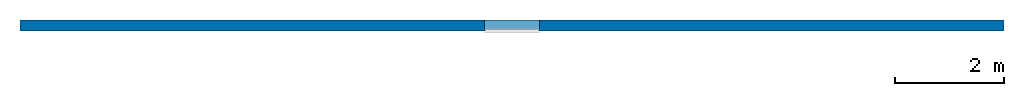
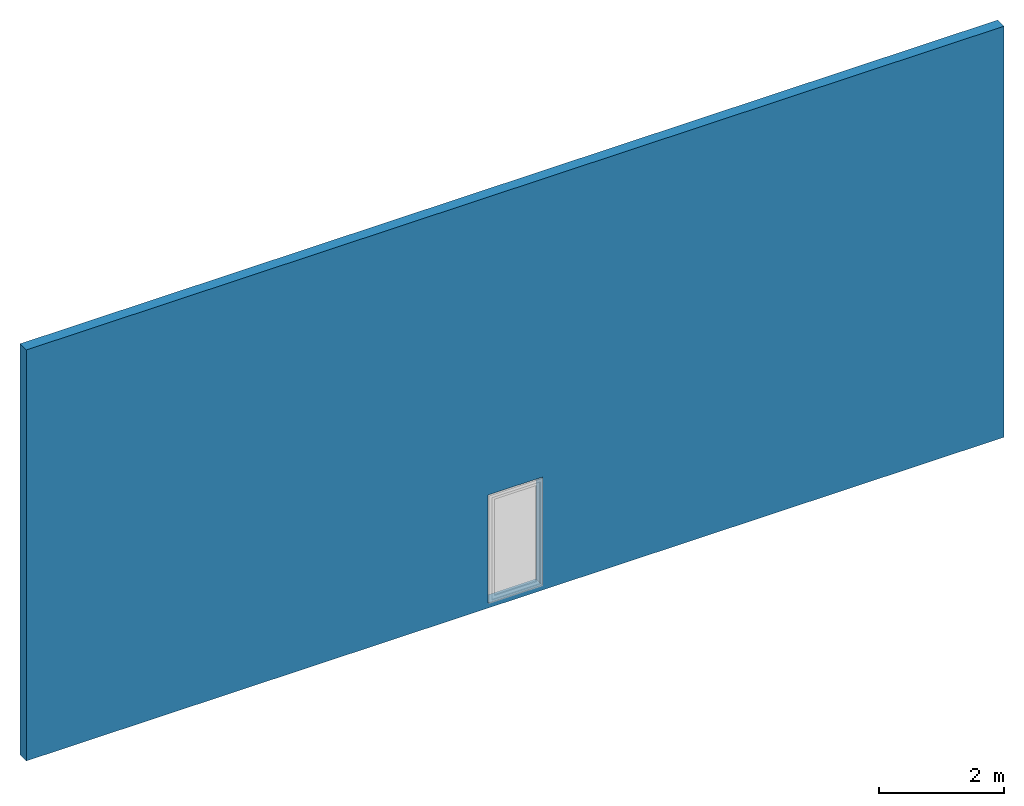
# One storey, part 1 of 2: 1 wall, 1 opening.
"""IFC2X3 building model written with IfcOpenShell, lengths in millimetres."""

import ifcopenshell
import ifcopenshell.guid

model = None  # the IFC model being written
_history = None  # IfcOwnerHistory: only IFC2X3 demands one
_inside = {}  # id of a spatial element -> (the spatial element, [elements in it])
_under = {}  # id of a project, library or spatial element -> (it, [spatial elements below it])
_declared = {}  # id of a project -> (the project, [libraries it declares])
_typed = {}  # id of a type object -> (the type object, [elements of that type])
_made_of = {}  # id of a material, layer set ... -> (it, [elements and type objects made of it])


def new_model(schema):
    """Start an empty IFC model of exactly this schema.

    Asked for "IFC4X3", IfcOpenShell would pick the latest addendum, in which some entities
    have other attributes; the version numbers below select the first issue.
    IFC2X3 requires an IfcOwnerHistory on every rooted entity: one is made here for all.
    """
    global model, _history
    if schema == "IFC4X3":
        model = ifcopenshell.file(schema_version=(4, 3, 0, 0))
    else:
        model = ifcopenshell.file(schema=schema)
    _inside.clear()
    _under.clear()
    _declared.clear()
    _typed.clear()
    _made_of.clear()
    _history = None
    if model.schema == "IFC2X3":
        org = make("IfcOrganization", Name="unknown")
        user = make(
            "IfcPersonAndOrganization",
            ThePerson=make("IfcPerson", FamilyName="unknown"),
            TheOrganization=org,
        )
        app = make(
            "IfcApplication",
            ApplicationDeveloper=org,
            Version="unknown",
            ApplicationFullName="unknown",
            ApplicationIdentifier="unknown",
        )
        _history = make(
            "IfcOwnerHistory",
            OwningUser=user,
            OwningApplication=app,
            ChangeAction="ADDED",
            CreationDate=0,
        )
    return model


def make(cls, **values):
    """One entity of the class cls with the attributes given. An attribute that is None is left unset."""
    return model.create_entity(
        cls, **{name: value for name, value in values.items() if value is not None}
    )


def entity(cls, *values):
    """Any entity or typed value of the class cls, its attributes in the order of the schema. None: left unset."""
    e = model.create_entity(cls)
    for i, value in enumerate(values):
        if value is not None:
            e[i] = value
    return e


def rooted(cls, **values):
    """An entity with a GlobalId (a new one), such as an element, a storey or a relation."""
    return make(cls, GlobalId=ifcopenshell.guid.new(), OwnerHistory=_history, **values)


def si_unit(unit_type, name, prefix=None):
    """IfcSIUnit, for example si_unit("LENGTHUNIT", "METRE", prefix="MILLI")."""
    return make("IfcSIUnit", UnitType=unit_type, Prefix=prefix, Name=name)


def converted_unit(unit_type, name, factor, base, dimensions=None, offset=None):
    """IfcConversionBasedUnit, such as the inch: factor (a typed value) times the base unit."""
    return make(
        "IfcConversionBasedUnit"
        if offset is None
        else "IfcConversionBasedUnitWithOffset",
        ConversionOffset=offset,
        Dimensions=None
        if dimensions is None
        else entity("IfcDimensionalExponents", *dimensions),
        UnitType=unit_type,
        Name=name,
        ConversionFactor=make(
            "IfcMeasureWithUnit", ValueComponent=factor, UnitComponent=base
        ),
    )


def derived_unit(unit_type, elements):
    """IfcDerivedUnit: a product of units, each with its exponent."""
    return make(
        "IfcDerivedUnit",
        Elements=[
            make("IfcDerivedUnitElement", Unit=unit, Exponent=power)
            for unit, power in elements
        ],
        UnitType=unit_type,
    )


def assignment(units):
    """IfcUnitAssignment: the units of a project."""
    return None if units is None else make("IfcUnitAssignment", Units=units)


def point(xyz):
    """IfcCartesianPoint."""
    return None if xyz is None else make("IfcCartesianPoint", Coordinates=xyz)


def direction(xyz):
    """IfcDirection."""
    return None if xyz is None else make("IfcDirection", DirectionRatios=xyz)


def frame(location, z_axis=None, x_axis=None):
    """IfcAxis2Placement3D, a coordinate frame: its origin and axes. An axis left out is left unset."""
    return make(
        "IfcAxis2Placement3D",
        Location=point(location),
        Axis=direction(z_axis),
        RefDirection=direction(x_axis),
    )


def frame_2d(location, x_axis=None):
    """IfcAxis2Placement2D, a coordinate frame in the plane: its origin and x axis."""
    return make(
        "IfcAxis2Placement2D", Location=point(location), RefDirection=direction(x_axis)
    )


def origin():
    """The frame at (0, 0, 0) with its axes left unset."""
    return frame((0.0, 0.0, 0.0))


def place(relative_to, where):
    """IfcLocalPlacement: puts the frame where relative to a parent placement (None: the world)."""
    return make(
        "IfcLocalPlacement", PlacementRelTo=relative_to, RelativePlacement=where
    )


def context(
    kind, dimensions, precision=None, world=None, true_north=None, identifier=None
):
    """IfcGeometricRepresentationContext, for example the 3D "Model" context."""
    return make(
        "IfcGeometricRepresentationContext",
        ContextIdentifier=identifier,
        ContextType=kind,
        CoordinateSpaceDimension=dimensions,
        Precision=precision,
        WorldCoordinateSystem=world,
        TrueNorth=true_north,
    )


def subcontext(parent, identifier, kind, view, scale=None):
    """IfcGeometricRepresentationSubContext, for example "Body" below "Model"."""
    return make(
        "IfcGeometricRepresentationSubContext",
        ContextIdentifier=identifier,
        ContextType=kind,
        ParentContext=parent,
        TargetScale=scale,
        TargetView=view,
    )


def project(units=None, contexts=None):
    """IfcProject with its units and contexts."""
    return rooted(
        "IfcProject",
        Name="project",
        RepresentationContexts=contexts,
        UnitsInContext=assignment(units),
    )


def spatial(cls, under=None, at=None, **own):
    """A site, building, storey or space (cls), placed at a placement, below another one or the project."""
    s = rooted(cls, ObjectPlacement=at, **own)
    if under is not None:
        _under.setdefault(under.id(), (under, []))[1].append(s)
    return s


def profile(cls, at=None, kind="AREA", **sizes):
    """A parametric profile (cls). Its sizes go by their IFC names, for example OverallWidth=200.0."""
    return make(cls, ProfileType=kind, Position=at, **sizes)


def rectangle(**sizes):
    """IfcRectangleProfileDef."""
    return profile("IfcRectangleProfileDef", **sizes)


def extrude(swept, where, along, depth):
    """IfcExtrudedAreaSolid: the profile swept, set in the frame where, extruded along a direction by depth."""
    return make(
        "IfcExtrudedAreaSolid",
        SweptArea=swept,
        Position=where,
        ExtrudedDirection=direction(along),
        Depth=depth,
    )


def shape(context_of_items, identifier, shape_type, items):
    """IfcShapeRepresentation: the items that make up one representation, for example the "Body"."""
    return make(
        "IfcShapeRepresentation",
        ContextOfItems=context_of_items,
        RepresentationIdentifier=identifier,
        RepresentationType=shape_type,
        Items=items,
    )


def material(Name=None, Category=None):
    """IfcMaterial."""
    return make("IfcMaterial", Name=Name, Category=Category)


def layer(
    of_material, thickness, ventilated=None, Name=None, Category=None, Priority=None
):
    """IfcMaterialLayer: one layer of a wall or slab, of a material (None: an air gap)."""
    return make(
        "IfcMaterialLayer",
        Material=of_material,
        LayerThickness=thickness,
        IsVentilated=ventilated,
        Name=Name,
        Category=Category,
        Priority=Priority,
    )


def layer_set(layers, Name=None):
    """IfcMaterialLayerSet."""
    return make("IfcMaterialLayerSet", MaterialLayers=layers, LayerSetName=Name)


def layer_usage(for_layer_set, set_direction, sense, offset, extent=None):
    """IfcMaterialLayerSetUsage: how a layer set lies in its element."""
    return make(
        "IfcMaterialLayerSetUsage",
        ForLayerSet=for_layer_set,
        LayerSetDirection=set_direction,
        DirectionSense=sense,
        OffsetFromReferenceLine=offset,
        ReferenceExtent=extent,
    )


def made_of(thing, what):
    """Note that an element or type object is made of a material, layer set ...; save() writes the relation."""
    if what is not None:
        _made_of.setdefault(what.id(), (what, []))[1].append(thing)
    return thing


def type_object(cls, material=None, **own):
    """A type object (cls), such as IfcWallType, which elements share."""
    return made_of(rooted(cls, **own), material)


def element(
    cls,
    number,
    at=None,
    inside=None,
    cuts=None,
    type_object=None,
    material=None,
    context=None,
    identifier="Body",
    shape_type=None,
    held_by="IfcProductDefinitionShape",
    body=None,
    shapes=None,
    **own,
):
    """One element of the class cls, such as IfcWall. Its Tag is "e" and its number.

    at: its placement. inside: the storey or other place that contains it. cuts: it is an
    opening in that element (IfcRelVoidsElement). A single representation is given by context,
    identifier, shape_type and body (its items); several are given by shapes. held_by: the class
    of the entity that holds the representations. save() writes the other relations.
    """
    e = rooted(cls, Tag="e%d" % number, ObjectPlacement=at, **own)
    if body is not None:
        shapes = [shape(context, identifier, shape_type, body)]
    if shapes is not None:
        e.Representation = make(held_by, Representations=shapes)
    if inside is not None:
        _inside.setdefault(inside.id(), (inside, []))[1].append(e)
    if cuts is not None:
        rooted(
            "IfcRelVoidsElement", RelatingBuildingElement=cuts, RelatedOpeningElement=e
        )
    if type_object is not None:
        _typed.setdefault(type_object.id(), (type_object, []))[1].append(e)
    return made_of(e, material)


def aggregate(whole, parts):
    """IfcRelAggregates: a whole, such as a stair, and the parts it consists of."""
    return rooted("IfcRelAggregates", RelatingObject=whole, RelatedObjects=parts)


def save(model, path):
    """Write the relations noted so far, then the file.

    IfcRelAggregates (storeys below a building ...), IfcRelContainedInSpatialStructure (elements
    in a storey), IfcRelDefinesByType, IfcRelAssociatesMaterial and IfcRelDeclares: one each for
    every whole, place, type object, material and project.
    """
    for whole, parts in _under.values():
        aggregate(whole, parts)
    for where, things in _inside.values():
        rooted(
            "IfcRelContainedInSpatialStructure",
            RelatedElements=things,
            RelatingStructure=where,
        )
    for kind, things in _typed.values():
        rooted("IfcRelDefinesByType", RelatedObjects=things, RelatingType=kind)
    for what, things in _made_of.values():
        rooted("IfcRelAssociatesMaterial", RelatedObjects=things, RelatingMaterial=what)
    for by, libraries in _declared.values():
        rooted("IfcRelDeclares", RelatingContext=by, RelatedDefinitions=libraries)
    model.write(path)


model = new_model("IFC2X3")

# Units and contexts
model_context = context("Model", 3, precision=0.01, world=origin(), true_north=direction((6.12303176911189e-17, 1.0)))
body_context = subcontext(model_context, "Body", "Model", "MODEL_VIEW")
ifc_project = project(units=[si_unit("LENGTHUNIT", "METRE", prefix="MILLI"), si_unit("AREAUNIT", "SQUARE_METRE"), si_unit("VOLUMEUNIT", "CUBIC_METRE"), converted_unit("PLANEANGLEUNIT", "DEGREE", entity("IfcRatioMeasure", 0.0174532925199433), si_unit("PLANEANGLEUNIT", "RADIAN"), dimensions=[0, 0, 0, 0, 0, 0, 0]), si_unit("MASSUNIT", "GRAM", prefix="KILO"), derived_unit("MASSDENSITYUNIT", [(si_unit("MASSUNIT", "GRAM", prefix="KILO"), 1), (si_unit("LENGTHUNIT", "METRE"), -3)]), si_unit("TIMEUNIT", "SECOND"), si_unit("FREQUENCYUNIT", "HERTZ"), si_unit("THERMODYNAMICTEMPERATUREUNIT", "DEGREE_CELSIUS"), derived_unit("THERMALTRANSMITTANCEUNIT", [(si_unit("MASSUNIT", "GRAM", prefix="KILO"), 1), (si_unit("THERMODYNAMICTEMPERATUREUNIT", "KELVIN"), -1), (si_unit("TIMEUNIT", "SECOND"), -3)]), derived_unit("VOLUMETRICFLOWRATEUNIT", [(si_unit("LENGTHUNIT", "METRE"), 3), (si_unit("TIMEUNIT", "SECOND"), -1)]), si_unit("ELECTRICCURRENTUNIT", "AMPERE"), si_unit("ELECTRICVOLTAGEUNIT", "VOLT"), si_unit("POWERUNIT", "WATT"), si_unit("FORCEUNIT", "NEWTON", prefix="KILO"), si_unit("ILLUMINANCEUNIT", "LUX"), si_unit("LUMINOUSFLUXUNIT", "LUMEN"), si_unit("LUMINOUSINTENSITYUNIT", "CANDELA"), derived_unit("USERDEFINED", [(si_unit("MASSUNIT", "GRAM", prefix="KILO"), -1), (si_unit("LENGTHUNIT", "METRE"), -2), (si_unit("TIMEUNIT", "SECOND"), 3), (si_unit("LUMINOUSFLUXUNIT", "LUMEN"), 1)]), derived_unit("LINEARVELOCITYUNIT", [(si_unit("LENGTHUNIT", "METRE"), 1), (si_unit("TIMEUNIT", "SECOND"), -1)]), si_unit("PRESSUREUNIT", "PASCAL"), derived_unit("USERDEFINED", [(si_unit("LENGTHUNIT", "METRE"), -2), (si_unit("MASSUNIT", "GRAM", prefix="KILO"), 1), (si_unit("TIMEUNIT", "SECOND"), -2)])], contexts=[model_context])

# Site, building, storey
site_placement = place(None, origin())
site = spatial("IfcSite", under=ifc_project, at=site_placement, Name="Default", CompositionType="ELEMENT")
building_placement = place(site_placement, origin())
building = spatial("IfcBuilding", under=site, at=building_placement, CompositionType="ELEMENT")
storey_placement = place(building_placement, origin())
storey = spatial("IfcBuildingStorey", under=building, at=storey_placement, Name="Nivel 1", CompositionType="ELEMENT", Elevation=0.0)

# Wall, opening
ifc_material = material(Name="Muro por defecto")
ifc_layer = layer(ifc_material, 200.0)
ifc_layer_set = layer_set([ifc_layer], Name="Muro básico:Genérico - 200 mm")
ifc_layer_usage = layer_usage(ifc_layer_set, "AXIS2", "NEGATIVE", 100.0)
wall_type = type_object("IfcWallType", Name="Muro básico:Genérico - 200 mm", PredefinedType="STANDARD", material=ifc_layer_set)
wall_placement = place(storey_placement, frame((-10823.7335756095, 2881.09928072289, 0.0)))
wall = element("IfcWallStandardCase", 1, at=wall_placement, inside=storey, type_object=wall_type, material=ifc_layer_usage, Name="Muro básico:Genérico - 200 mm", ObjectType="Muro básico:Genérico - 200 mm:398", context=body_context, shape_type="SweptSolid", body=[
    extrude(rectangle(XDim=18000.0, YDim=200.0, at=frame_2d((9000.0, -6.3948846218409e-14), x_axis=(-1.0, 0.0))), origin(), (0.0, 0.0, 1.0), 8000.0),
])
opening_placement = place(wall_placement, origin())
element("IfcOpeningElement", 2, at=opening_placement, cuts=wall, Name="Muro básico:Genérico - 200 mm", ObjectType="Opening", context=body_context, shape_type="SweptSolid", body=[
    extrude(rectangle(XDim=2100.00000000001, YDim=1000.0, at=frame_2d((0.0, 0.0), x_axis=(0.0, 1.0))), frame((9000.0, -1424.0, 1150.0), z_axis=(0.0, 1.0, 0.0), x_axis=(-1.0, 0.0, 0.0)), (0.0, 0.0, 1.0), 3048.0),
])

save(model, "model.ifc")
